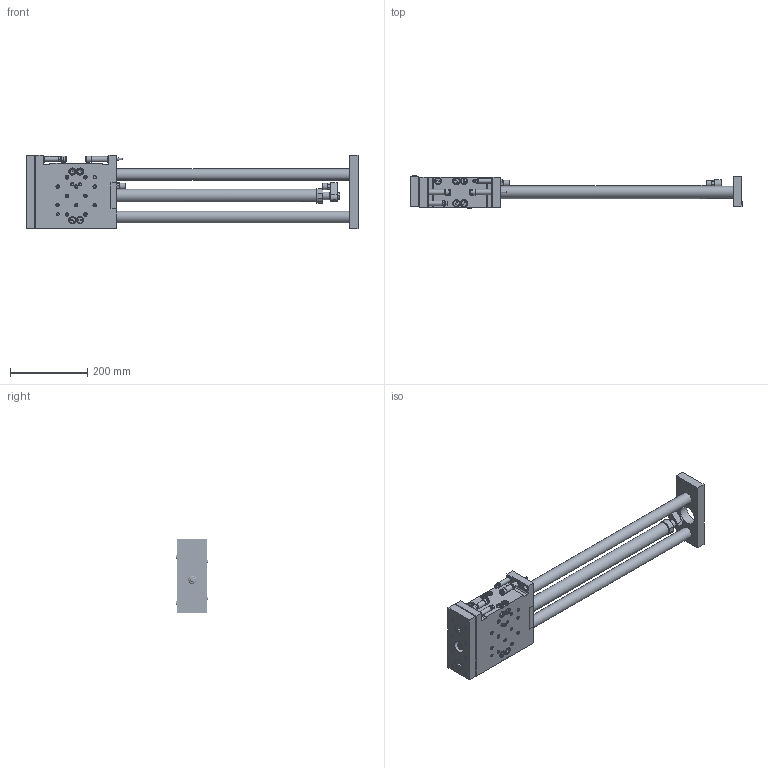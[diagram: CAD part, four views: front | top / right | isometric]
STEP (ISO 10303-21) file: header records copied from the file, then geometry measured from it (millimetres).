
FILE_DESCRIPTION((''),'2;1');
FILE_NAME('V:\CAD\Inventor-Stp\Linearelemente\Kugelbüchsenführungen\GLE 32\inv\1000050\1000050.stp','2007-05-29T10:30:28',('is'),(''),'Autodesk Inventor 10','Autodesk Inventor 10','');
FILE_SCHEMA(('AUTOMOTIVE_DESIGN { 1 0 10303 214 1 1 1 1 }'));
Length unit declared in the file: millimetre
Products named in the file (3): 1000050; 1000050-a; 1000050-b
Assembly tree (2 placements, depth 2):
  1000050
    1000050-a
    1000050-b
Bounding box: 860 x 82.9 x 190 mm (x, y, z)
Volume: 4142068.5 mm3; surface area: 777427.5 mm2
Topology: 81 solids, 94 shells, 1738 faces, 3842 edges, 2473 vertices
Faces by surface type: plane 625, bspline 485, cylinder 303, cone 242, torus 83
Full cylindrical faces by diameter (mm): 1 x4, 1.4 x2, 1.97 x2, 2 x8, 2.3 x2, 3.4 x2, 3.5 x2, 3.6 x2, 4 x8, 4.2 x2, 4.3 x2, 5 x9, 5.5 x1, 6 x2, 6.8 x2, 7.2 x2, 7.3 x2, 7.4 x2, 7.8 x2, 8 x8, 8.2 x2, 8.4 x2, 8.5 x4, 9 x6, 9.2 x2, 9.7 x4, 10 x6, 10.5 x1, 11 x2, 11.4 x15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
Entity records: 50037 total; most frequent: CARTESIAN_POINT 18418, DIRECTION 6276, ORIENTED_EDGE 5234, EDGE_LOOP 2981, AXIS2_PLACEMENT_3D 2737, EDGE_CURVE 2617, VERTEX_POINT 2083, FACE_OUTER_BOUND 1728
